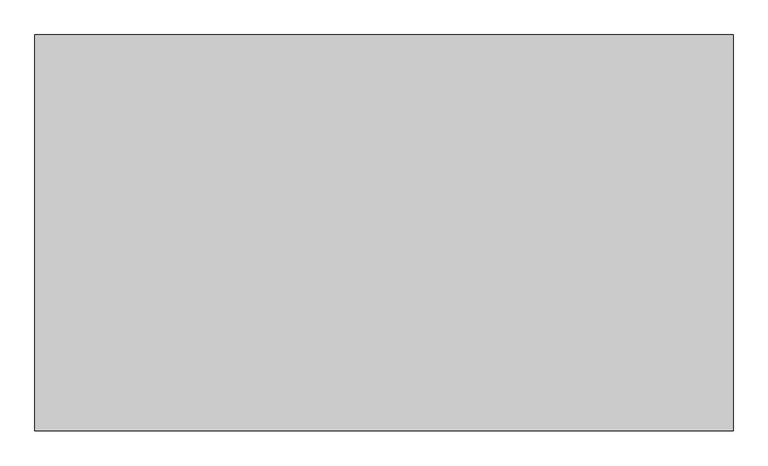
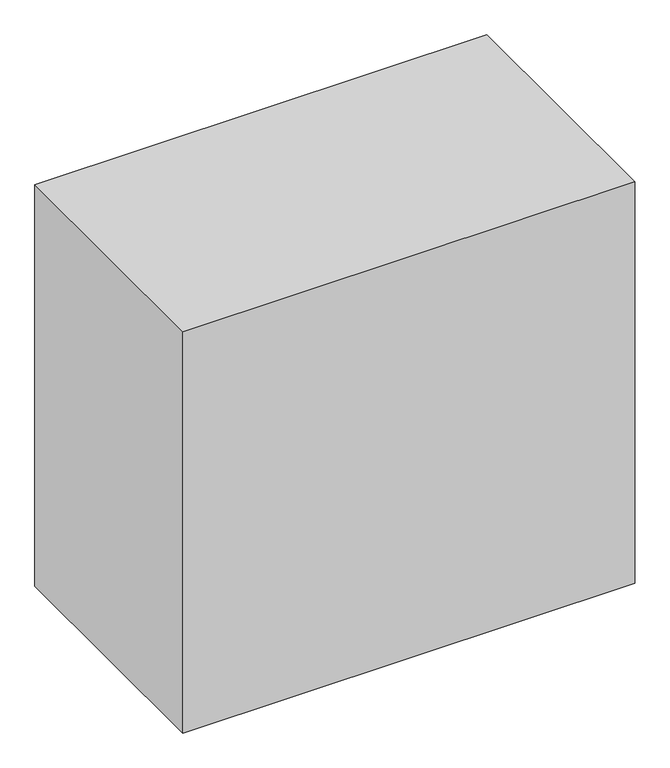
"""IFC4 building model written with IfcOpenShell, lengths in millimetres: proxy geometry, サービススペース(衛生) : サービススペース(衛生)."""

from ifc_helpers import new_model, si_unit, frame, origin, place, context, project, spatial, polyline, outline, extrude, source, transform, mapped, element, save


def specialty_equipment_bdb20116(model_context):
    return source(origin(), model_context, "Body", "SweptSolid", [
        extrude(outline(polyline([(1490.0, 845.0), (1490.0, -845.0), (-1490.0, -845.0), (-1490.0, 845.0), (1490.0, 845.0)])), frame((0.0, 0.0, -1400.0), z_axis=(0.0, 0.0, 1.0), x_axis=(1.0, 0.0, 0.0)), (0.0, 0.0, 1.0), 2800.0),
    ])


if __name__ == "__main__":
    model = new_model("IFC4")
    model_context = context("Model", 3, world=origin())
    ifc_project = project(units=[si_unit("LENGTHUNIT", "METRE", prefix="MILLI")], contexts=[model_context])
    site = spatial("IfcSite", under=ifc_project)
    building = spatial("IfcBuilding", under=site)
    placement = place(None, origin())
    specialty_equipment_shape = specialty_equipment_bdb20116(model_context)
    element("IfcBuildingElementProxy", 1, Name="サービススペース(衛生) : サービススペース(衛生)", ObjectType="サービススペース(衛生) : サービススペース(衛生)", at=placement, inside=building, context=model_context, shape_type="MappedRepresentation", body=[
        mapped(specialty_equipment_shape, transform((0.0, 0.0, 0.0), x_axis=(1.0, 0.0, 0.0), y_axis=(0.0, 1.0, 0.0), z_axis=(0.0, 0.0, 1.0))),
    ])
    save(model, "model.ifc")
